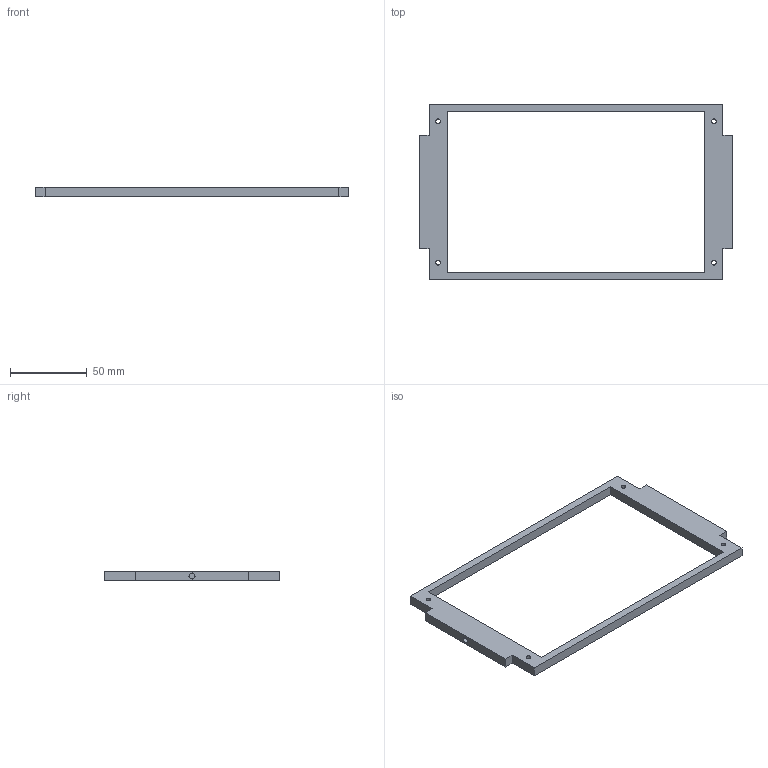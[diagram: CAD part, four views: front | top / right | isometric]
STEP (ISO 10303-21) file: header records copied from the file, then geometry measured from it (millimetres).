
FILE_DESCRIPTION (( 'STEP AP203' ), '1' );
FILE_NAME ('Screen Bezel.STEP', '2026-01-29T02:18:12', ( '' ), ( '' ), 'SwSTEP 2.0', 'SolidWorks 2019', '' );
FILE_SCHEMA (( 'CONFIG_CONTROL_DESIGN' ));
Length unit declared in the file: inch
Products named in the file (1): Screen Bezel
Bounding box: 203.6 x 114.3 x 6.35 mm (x, y, z)
Volume: 33315.3 mm3; surface area: 18497.9 mm2
Topology: 1 solids, 1 shells, 32 faces, 84 edges, 56 vertices
Faces by surface type: plane 20, cylinder 12
Entity records: 1091 total; most frequent: DIRECTION 174, CARTESIAN_POINT 173, ORIENTED_EDGE 168, EDGE_CURVE 84, LINE 60, VECTOR 60, AXIS2_PLACEMENT_3D 57, VERTEX_POINT 56
